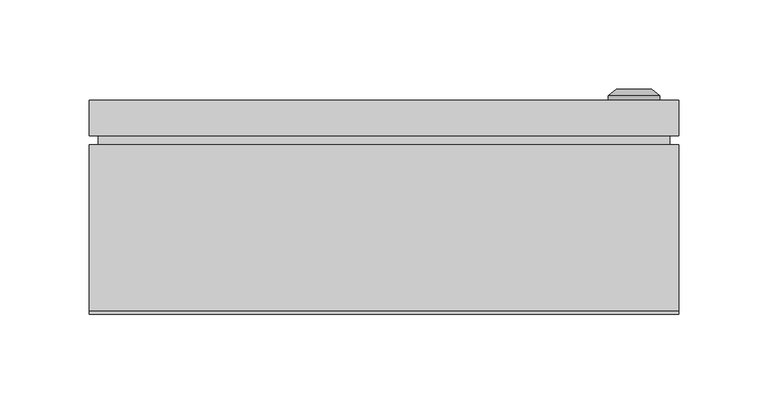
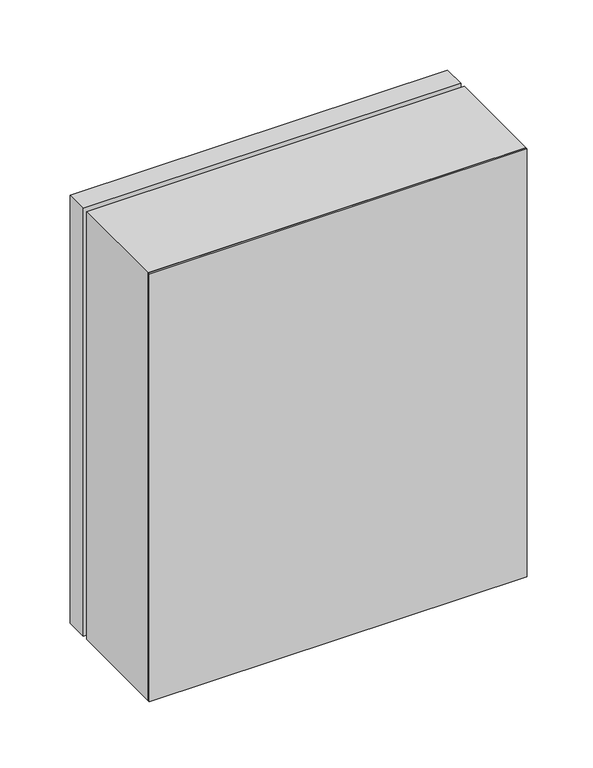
"""IFC4 building model written with IfcOpenShell, lengths in millimetres: proxy geometry, ЩРН-24_IP66 : ЩРН-24_IP66."""

from ifc_helpers import new_model, si_unit, frame, origin, origin_with_axes, place, context, project, spatial, polyline, circle_curve, outline, extrude, source, transform, mapped, element, save
from ifc_brep_helpers import plane_surface, cylinder_surface, revolved_surface, advanced_brep


def electrical_equipment_a689f8a6(model_context):
    return source(origin(), model_context, "Body", "SolidModel", [
        extrude(outline(polyline([(160.0, 95.0), (-160.0, 95.0), (-160.0, 100.0), (160.0, 100.0), (160.0, 95.0)])), frame((0.0, 0.0, 5.0), z_axis=(0.0, 0.0, 1.0), x_axis=(1.0, 0.0, 0.0)), (0.0, 0.0, 1.0), 385.0),
        extrude(outline(polyline([(165.0, 100.0), (-165.0, 100.0), (-165.0, 120.0), (165.0, 120.0), (165.0, 100.0)])), origin_with_axes(), (0.0, 0.0, 1.0), 395.0),
        advanced_brep(
        [(125.669873, 120.0, 195.0), (154.330127, 120.0, 195.0), (140.0, 120.0, 195.0), (125.669873, 122.366592, 195.0), (154.330127, 122.366592, 195.0), (130.0, 126.0, 195.0), (150.0, 126.0, 195.0), (138.1080471, 126.0, 195.0), (141.8919529, 126.0, 195.0), (138.1080471, 124.9822294, 195.0), (141.8919529, 124.9822294, 195.0), (140.0, 124.9822294, 195.0)],
        [
            (0, 1, circle_curve(frame((140.0, 120.0, 195.0), z_axis=(0.0, -1.0, 0.0), x_axis=(1.0, 0.0, 0.0)), 14.330127)),
            (1, 2),
            (2, 0),
            (1, 0, circle_curve(frame((140.0, 120.0, 195.0), z_axis=(0.0, -1.0, 0.0), x_axis=(1.0, 0.0, 0.0)), 14.330127)),
            (3, 4, circle_curve(frame((140.0, 122.366592, 195.0), z_axis=(0.0, -1.0, 0.0), x_axis=(1.0, 0.0, 0.0)), 14.330127)),
            (4, 1),
            (0, 3),
            (4, 3, circle_curve(frame((140.0, 122.366592, 195.0), z_axis=(0.0, -1.0, 0.0), x_axis=(1.0, 0.0, 0.0)), 14.330127)),
            (5, 6, circle_curve(frame((140.0, 126.0, 195.0), z_axis=(0.0, -1.0, 0.0), x_axis=(1.0, 0.0, 0.0)), 10.0)),
            (6, 4),
            (3, 5),
            (6, 5, circle_curve(frame((140.0, 126.0, 195.0), z_axis=(0.0, -1.0, 0.0), x_axis=(1.0, 0.0, 0.0)), 10.0)),
            (7, 8, circle_curve(frame((140.0, 126.0, 195.0), z_axis=(0.0, -1.0, 0.0), x_axis=(1.0, 0.0, 0.0)), 1.8919529)),
            (8, 6),
            (5, 7),
            (8, 7, circle_curve(frame((140.0, 126.0, 195.0), z_axis=(0.0, -1.0, 0.0), x_axis=(1.0, 0.0, 0.0)), 1.8919529)),
            (9, 10, circle_curve(frame((140.0, 124.9822294, 195.0), z_axis=(0.0, -1.0, 0.0), x_axis=(1.0, 0.0, 0.0)), 1.8919529)),
            (10, 8),
            (7, 9),
            (10, 9, circle_curve(frame((140.0, 124.9822294, 195.0), z_axis=(0.0, -1.0, 0.0), x_axis=(1.0, 0.0, 0.0)), 1.8919529)),
            (11, 10),
            (9, 11),
        ],
        [
            plane_surface(frame((140.0, 120.0, 195.0), z_axis=(0.0, -1.0, 0.0), x_axis=(1.0, 0.0, 0.0))),
            cylinder_surface(frame((140.0, 133.1348851, 195.0), z_axis=(0.0, 1.0, 0.0), x_axis=(1.0, 0.0, 0.0)), 14.330127),
            revolved_surface(polyline([(154.330127, 122.366592, 195.0), (150.0, 126.0, 195.0)]), (140.0, 133.1348851, 195.0), (0.0, 1.0, 0.0)),
            plane_surface(frame((140.0, 126.0, 195.0), z_axis=(0.0, 1.0, 0.0), x_axis=(1.0, 0.0, 0.0))),
            revolved_surface(polyline([(141.8919529, 126.0, 195.0), (141.8919529, 124.9822294, 195.0)]), (140.0, 133.1348851, 195.0), (0.0, 1.0, 0.0)),
            plane_surface(frame((140.0, 124.9822294, 195.0), z_axis=(0.0, 1.0, 0.0), x_axis=(1.0, 0.0, 0.0))),
        ],
        [
            (0, [[1, 2, 3]]),
            (0, [[4, -3, -2]]),
            (1, [[5, 6, -1, 7]]),
            (1, [[8, -7, -4, -6]]),
            (2, [[9, 10, -5, 11]]),
            (2, [[12, -11, -8, -10]]),
            (3, [[13, 14, -9, 15]]),
            (3, [[16, -15, -12, -14]]),
            (4, [[17, 18, -13, 19]]),
            (4, [[20, -19, -16, -18]]),
            (5, [[21, -17, 22]]),
            (5, [[-22, -20, -21]]),
        ],
    ),
        extrude(outline(polyline([(395.0, -165.0033905), (0.0, -165.0033905), (0.0, 164.9966095), (395.0, 164.9966095), (395.0, -165.0033905)]), holes=[polyline([(360.0, -125.0033905), (360.0, 149.9966095), (30.0, 149.9966095), (30.0, -125.0033905), (360.0, -125.0033905)])]), frame((0.0, 2.0, 0.0), z_axis=(0.0, 1.0, 0.0), x_axis=(0.0, 0.0, 1.0)), (0.0, 0.0, 1.0), 93.0),
        extrude(outline(polyline([(165.0, 0.0), (-165.0, 0.0), (-165.0, 2.0), (165.0, 2.0), (165.0, 0.0)])), origin_with_axes(), (0.0, 0.0, 1.0), 395.0),
    ])


if __name__ == "__main__":
    model = new_model("IFC4")
    model_context = context("Model", 3, world=origin())
    ifc_project = project(units=[si_unit("LENGTHUNIT", "METRE", prefix="MILLI")], contexts=[model_context])
    site = spatial("IfcSite", under=ifc_project)
    building = spatial("IfcBuilding", under=site)
    placement = place(None, origin())
    electrical_equipment_shape = electrical_equipment_a689f8a6(model_context)
    element("IfcBuildingElementProxy", 1, Name="ЩРН-24_IP66 : ЩРН-24_IP66", ObjectType="ЩРН-24_IP66 : ЩРН-24_IP66", at=placement, inside=building, context=model_context, shape_type="MappedRepresentation", body=[
        mapped(electrical_equipment_shape, transform((0.0, 0.0, 0.0), x_axis=(1.0, 0.0, 0.0), y_axis=(0.0, 1.0, 0.0), z_axis=(0.0, 0.0, 1.0))),
    ])
    save(model, "model.ifc")
